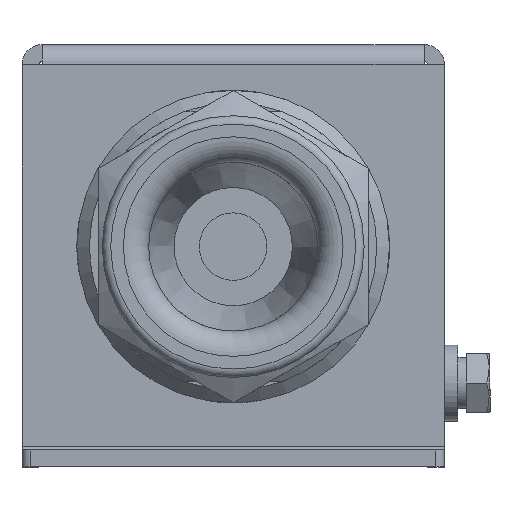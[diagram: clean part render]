
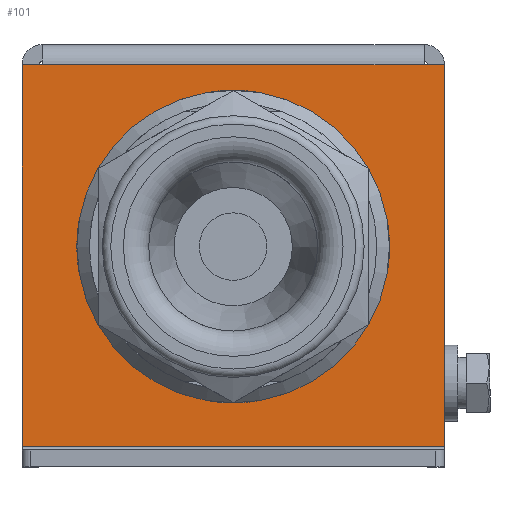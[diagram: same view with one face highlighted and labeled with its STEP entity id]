
A CAD part, left-side view. The second image highlights one B-rep face of the part: STEP entity #101.
In plain terms, the highlighted planar face has unit normal (-1, 0, 0).
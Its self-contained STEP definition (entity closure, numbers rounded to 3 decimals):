
#101=ADVANCED_FACE('',(#1660,#1662),#1664,.T.);
#1660=FACE_BOUND('',#1661,.T.);
#1661=EDGE_LOOP('',(#4399));
#1662=FACE_OUTER_BOUND('',#1663,.T.);
#1663=EDGE_LOOP('',(#4400,#4401,#4402,#4403,#4404,#4405));
#1664=PLANE('',#1665);
#1665=AXIS2_PLACEMENT_3D('',#1666,#1667,#1668);
#1666=CARTESIAN_POINT('',(-26.,0.,24.928));
#1667=DIRECTION('',(-1.,0.,0.));
#1668=DIRECTION('',(0.,0.,1.));
#4399=ORIENTED_EDGE('',*,*,#6335,.T.);
#4400=ORIENTED_EDGE('',*,*,#6338,.F.);
#4401=ORIENTED_EDGE('',*,*,#6339,.T.);
#4402=ORIENTED_EDGE('',*,*,#6340,.F.);
#4403=ORIENTED_EDGE('',*,*,#6341,.F.);
#4404=ORIENTED_EDGE('',*,*,#6342,.F.);
#4405=ORIENTED_EDGE('',*,*,#6343,.T.);
#6335=EDGE_CURVE('',#6950,#6950,#6951,.T.);
#6338=EDGE_CURVE('',#6955,#6956,#6957,.T.);
#6339=EDGE_CURVE('',#6955,#6958,#6959,.T.);
#6340=EDGE_CURVE('',#6960,#6958,#6961,.T.);
#6341=EDGE_CURVE('',#6962,#6960,#6963,.T.);
#6342=EDGE_CURVE('',#6964,#6962,#6965,.T.);
#6343=EDGE_CURVE('',#6964,#6956,#6966,.T.);
#6950=VERTEX_POINT('',#7906);
#6951=CIRCLE('',#7907,14.3);
#6955=VERTEX_POINT('',#7919);
#6956=VERTEX_POINT('',#7920);
#6957=LINE('',#7921,#7922);
#6958=VERTEX_POINT('',#7924);
#6959=LINE('',#7925,#7926);
#6960=VERTEX_POINT('',#7928);
#6961=LINE('',#7929,#7930);
#6962=VERTEX_POINT('',#7932);
#6963=LINE('',#7933,#7934);
#6964=VERTEX_POINT('',#7936);
#6965=LINE('',#7937,#7938);
#6966=LINE('',#7940,#7941);
#7906=CARTESIAN_POINT('',(-26.,0.,-7.623));
#7907=AXIS2_PLACEMENT_3D('',#7908,#7909,#7910);
#7908=CARTESIAN_POINT('',(-26.,0.,-21.923));
#7909=DIRECTION('',(1.,-0.,0.));
#7910=DIRECTION('',(0.,0.,1.));
#7919=CARTESIAN_POINT('',(-26.,-25.,-45.6));
#7920=CARTESIAN_POINT('',(-26.,25.,-45.6));
#7921=CARTESIAN_POINT('',(-26.,-25.,-45.6));
#7922=VECTOR('',#7923,1.);
#7923=DIRECTION('',(0.,1.,0.));
#7924=CARTESIAN_POINT('',(-26.,-25.,-0.4));
#7925=CARTESIAN_POINT('',(-26.,-25.,-45.6));
#7926=VECTOR('',#7927,1.);
#7927=DIRECTION('',(0.,0.,1.));
#7928=CARTESIAN_POINT('',(-26.,-22.6,-0.4));
#7929=CARTESIAN_POINT('',(-26.,-22.6,-0.4));
#7930=VECTOR('',#7931,1.);
#7931=DIRECTION('',(0.,-1.,0.));
#7932=CARTESIAN_POINT('',(-26.,22.6,-0.4));
#7933=CARTESIAN_POINT('',(-26.,22.6,-0.4));
#7934=VECTOR('',#7935,1.);
#7935=DIRECTION('',(0.,-1.,0.));
#7936=CARTESIAN_POINT('',(-26.,25.,-0.4));
#7937=CARTESIAN_POINT('',(-26.,25.,-0.4));
#7938=VECTOR('',#7939,1.);
#7939=DIRECTION('',(0.,-1.,0.));
#7940=CARTESIAN_POINT('',(-26.,25.,-0.4));
#7941=VECTOR('',#7942,1.);
#7942=DIRECTION('',(0.,0.,-1.));
